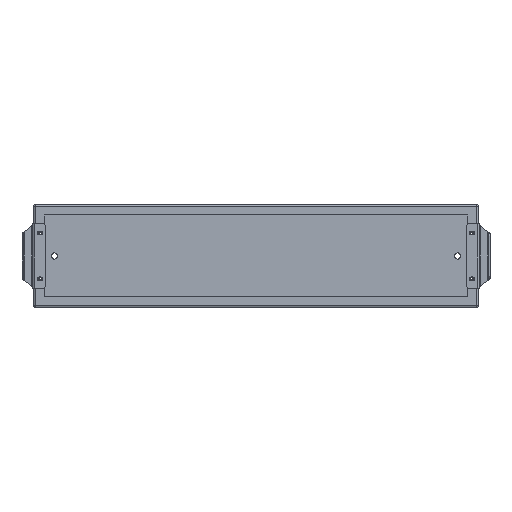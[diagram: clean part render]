
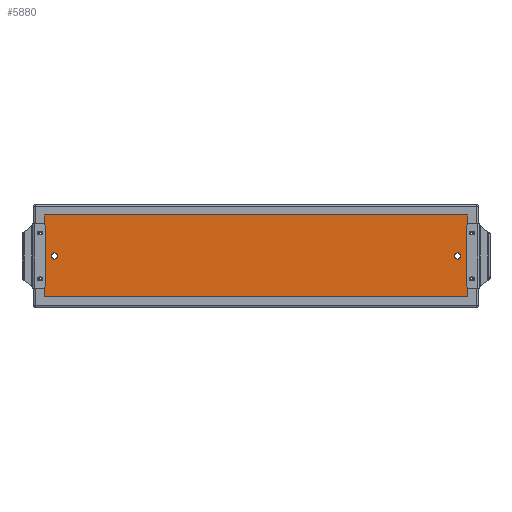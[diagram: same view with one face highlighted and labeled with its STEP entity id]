
A CAD part, top view. The second image highlights one B-rep face of the part: STEP entity #5880.
In plain terms, the highlighted planar face has unit normal (0, 0, 1).
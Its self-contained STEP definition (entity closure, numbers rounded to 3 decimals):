
#601 = AXIS2_PLACEMENT_3D ( 'NONE', #3794, #3787, #3786 ) ;
#619 = AXIS2_PLACEMENT_3D ( 'NONE', #3565, #3558, #3557 ) ;
#635 = AXIS2_PLACEMENT_3D ( 'NONE', #3718, #3711, #3710 ) ;
#645 = VECTOR ( 'NONE', #3559, 1000. ) ;
#700 = VECTOR ( 'NONE', #3613, 1000. ) ;
#739 = FACE_BOUND ( 'NONE', #2182, .T. ) ;
#740 = FACE_BOUND ( 'NONE', #2179, .T. ) ;
#741 = FACE_BOUND ( 'NONE', #2088, .T. ) ;
#744 = FACE_BOUND ( 'NONE', #2068, .T. ) ;
#745 = AXIS2_PLACEMENT_3D ( 'NONE', #2869, #2868, #2867 ) ;
#747 = FACE_BOUND ( 'NONE', #2090, .T. ) ;
#749 = FACE_OUTER_BOUND ( 'NONE', #2050, .T. ) ;
#754 = FACE_BOUND ( 'NONE', #2048, .T. ) ;
#913 = AXIS2_PLACEMENT_3D ( 'NONE', #4255, #4254, #4253 ) ;
#1091 = AXIS2_PLACEMENT_3D ( 'NONE', #3487, #3486, #3485 ) ;
#1134 = AXIS2_PLACEMENT_3D ( 'NONE', #4252, #4251, #4250 ) ;
#1268 = AXIS2_PLACEMENT_3D ( 'NONE', #3431, #3430, #3429 ) ;
#1300 = AXIS2_PLACEMENT_3D ( 'NONE', #3437, #3433, #3432 ) ;
#1308 = VECTOR ( 'NONE', #4208, 1000. ) ;
#1310 = VECTOR ( 'NONE', #4212, 1000. ) ;
#1512 = EDGE_CURVE ( 'NONE', #5394, #1844, #5683, .T. ) ;
#1519 = EDGE_CURVE ( 'NONE', #5418, #1867, #5688, .T. ) ;
#1526 = EDGE_CURVE ( 'NONE', #5407, #5408, #5690, .T. ) ;
#1528 = EDGE_CURVE ( 'NONE', #1870, #1892, #5692, .T. ) ;
#1587 = EDGE_CURVE ( 'NONE', #1869, #5421, #5703, .T. ) ;
#1612 = EDGE_CURVE ( 'NONE', #1885, #5357, #5715, .T. ) ;
#1636 = EDGE_CURVE ( 'NONE', #5368, #5363, #3615, .T. ) ;
#1652 = EDGE_CURVE ( 'NONE', #5376, #5361, #3561, .T. ) ;
#1653 = EDGE_CURVE ( 'NONE', #1892, #1870, #5728, .T. ) ;
#1677 = EDGE_CURVE ( 'NONE', #1867, #5418, #5736, .T. ) ;
#1693 = EDGE_CURVE ( 'NONE', #1844, #5394, #5950, .T. ) ;
#1694 = EDGE_CURVE ( 'NONE', #5357, #1885, #5949, .T. ) ;
#1717 = EDGE_CURVE ( 'NONE', #5421, #1869, #5955, .T. ) ;
#1718 = EDGE_CURVE ( 'NONE', #5408, #5407, #5957, .T. ) ;
#1729 = EDGE_CURVE ( 'NONE', #5363, #5361, #4214, .T. ) ;
#1730 = EDGE_CURVE ( 'NONE', #5368, #5376, #4210, .T. ) ;
#1844 = VERTEX_POINT ( 'NONE', #2666 ) ;
#1867 = VERTEX_POINT ( 'NONE', #2643 ) ;
#1869 = VERTEX_POINT ( 'NONE', #2641 ) ;
#1870 = VERTEX_POINT ( 'NONE', #2640 ) ;
#1885 = VERTEX_POINT ( 'NONE', #2625 ) ;
#1892 = VERTEX_POINT ( 'NONE', #2618 ) ;
#2048 = EDGE_LOOP ( 'NONE', ( #5244, #5247 ) ) ;
#2050 = EDGE_LOOP ( 'NONE', ( #5248, #5250, #5249, #5251 ) ) ;
#2068 = EDGE_LOOP ( 'NONE', ( #5252, #5257 ) ) ;
#2088 = EDGE_LOOP ( 'NONE', ( #5254, #5256 ) ) ;
#2090 = EDGE_LOOP ( 'NONE', ( #5253, #5255 ) ) ;
#2179 = EDGE_LOOP ( 'NONE', ( #5278, #5276 ) ) ;
#2182 = EDGE_LOOP ( 'NONE', ( #5275, #5274 ) ) ;
#2412 = CARTESIAN_POINT ( 'NONE',  ( -299.5, 0., 2. ) ) ;
#2415 = CARTESIAN_POINT ( 'NONE',  ( 290.5, 0., 2. ) ) ;
#2425 = CARTESIAN_POINT ( 'NONE',  ( -317.8, -33.5, 2. ) ) ;
#2426 = CARTESIAN_POINT ( 'NONE',  ( -314.2, -33.5, 2. ) ) ;
#2439 = CARTESIAN_POINT ( 'NONE',  ( -314.2, 33.5, 2. ) ) ;
#2457 = CARTESIAN_POINT ( 'NONE',  ( 323., 73., 2. ) ) ;
#2465 = CARTESIAN_POINT ( 'NONE',  ( 323., -73., 2. ) ) ;
#2470 = CARTESIAN_POINT ( 'NONE',  ( -323., -73., 2. ) ) ;
#2472 = CARTESIAN_POINT ( 'NONE',  ( -323., 73., 2. ) ) ;
#2476 = CARTESIAN_POINT ( 'NONE',  ( 317.8, -33.5, 2. ) ) ;
#2618 = CARTESIAN_POINT ( 'NONE',  ( 317.8, 33.5, 2. ) ) ;
#2625 = CARTESIAN_POINT ( 'NONE',  ( 314.2, -33.5, 2. ) ) ;
#2640 = CARTESIAN_POINT ( 'NONE',  ( 314.2, 33.5, 2. ) ) ;
#2641 = CARTESIAN_POINT ( 'NONE',  ( -290.5, 0., 2. ) ) ;
#2643 = CARTESIAN_POINT ( 'NONE',  ( 299.5, 0., 2. ) ) ;
#2666 = CARTESIAN_POINT ( 'NONE',  ( -317.8, 33.5, 2. ) ) ;
#2867 = DIRECTION ( 'NONE',  ( 1., 0., 0. ) ) ;
#2868 = DIRECTION ( 'NONE',  ( 0., 0., 1. ) ) ;
#2869 = CARTESIAN_POINT ( 'NONE',  ( 0., 0., 2. ) ) ;
#2870 = PLANE ( 'NONE',  #745 ) ;
#3429 = DIRECTION ( 'NONE',  ( 1., 0., 0. ) ) ;
#3430 = DIRECTION ( 'NONE',  ( 0., 0., 1. ) ) ;
#3431 = CARTESIAN_POINT ( 'NONE',  ( 316., -33.5, 2. ) ) ;
#3432 = DIRECTION ( 'NONE',  ( 1., 0., 0. ) ) ;
#3433 = DIRECTION ( 'NONE',  ( 0., 0., -1. ) ) ;
#3437 = CARTESIAN_POINT ( 'NONE',  ( -316., 33.5, 2. ) ) ;
#3485 = DIRECTION ( 'NONE',  ( 1., 0., 0. ) ) ;
#3486 = DIRECTION ( 'NONE',  ( 0., 0., 1. ) ) ;
#3487 = CARTESIAN_POINT ( 'NONE',  ( 295., 0., 2. ) ) ;
#3557 = DIRECTION ( 'NONE',  ( 1., 0., 0. ) ) ;
#3558 = DIRECTION ( 'NONE',  ( 0., 0., 1. ) ) ;
#3559 = DIRECTION ( 'NONE',  ( -1., 0., 0. ) ) ;
#3560 = CARTESIAN_POINT ( 'NONE',  ( 325., 73., 2. ) ) ;
#3561 = LINE ( 'NONE', #3560, #645 ) ;
#3565 = CARTESIAN_POINT ( 'NONE',  ( 316., 33.5, 2. ) ) ;
#3613 = DIRECTION ( 'NONE',  ( -1., 0., 0. ) ) ;
#3614 = CARTESIAN_POINT ( 'NONE',  ( 0., -73., 2. ) ) ;
#3615 = LINE ( 'NONE', #3614, #700 ) ;
#3710 = DIRECTION ( 'NONE',  ( 1., 0., 0. ) ) ;
#3711 = DIRECTION ( 'NONE',  ( 0., 0., 1. ) ) ;
#3718 = CARTESIAN_POINT ( 'NONE',  ( 316., -33.5, 2. ) ) ;
#3786 = DIRECTION ( 'NONE',  ( -1., 0., 0. ) ) ;
#3787 = DIRECTION ( 'NONE',  ( 0., 0., -1. ) ) ;
#3794 = CARTESIAN_POINT ( 'NONE',  ( -295., 0., 2. ) ) ;
#4208 = DIRECTION ( 'NONE',  ( 0., 1., 0. ) ) ;
#4209 = CARTESIAN_POINT ( 'NONE',  ( 323., -75., 2. ) ) ;
#4210 = LINE ( 'NONE', #4209, #1308 ) ;
#4212 = DIRECTION ( 'NONE',  ( 0., 1., 0. ) ) ;
#4213 = CARTESIAN_POINT ( 'NONE',  ( -323., 0., 2. ) ) ;
#4214 = LINE ( 'NONE', #4213, #1310 ) ;
#4250 = DIRECTION ( 'NONE',  ( 1., 0., 0. ) ) ;
#4251 = DIRECTION ( 'NONE',  ( 0., 0., -1. ) ) ;
#4252 = CARTESIAN_POINT ( 'NONE',  ( -316., -33.5, 2. ) ) ;
#4253 = DIRECTION ( 'NONE',  ( -1., 0., 0. ) ) ;
#4254 = DIRECTION ( 'NONE',  ( 0., 0., -1. ) ) ;
#4255 = CARTESIAN_POINT ( 'NONE',  ( -295., 0., 2. ) ) ;
#4350 = DIRECTION ( 'NONE',  ( 1., 0., 0. ) ) ;
#4351 = DIRECTION ( 'NONE',  ( 0., 0., 1. ) ) ;
#4355 = CARTESIAN_POINT ( 'NONE',  ( 316., 33.5, 2. ) ) ;
#4356 = DIRECTION ( 'NONE',  ( 1., 0., 0. ) ) ;
#4357 = DIRECTION ( 'NONE',  ( 0., 0., -1. ) ) ;
#4358 = CARTESIAN_POINT ( 'NONE',  ( -316., -33.5, 2. ) ) ;
#4377 = DIRECTION ( 'NONE',  ( 1., 0., 0. ) ) ;
#4378 = DIRECTION ( 'NONE',  ( 0., 0., 1. ) ) ;
#4382 = CARTESIAN_POINT ( 'NONE',  ( 295., 0., 2. ) ) ;
#4398 = DIRECTION ( 'NONE',  ( 1., 0., 0. ) ) ;
#4399 = DIRECTION ( 'NONE',  ( 0., 0., -1. ) ) ;
#4400 = CARTESIAN_POINT ( 'NONE',  ( -316., 33.5, 2. ) ) ;
#5244 = ORIENTED_EDGE ( 'NONE', *, *, #1512, .T. ) ;
#5247 = ORIENTED_EDGE ( 'NONE', *, *, #1693, .T. ) ;
#5248 = ORIENTED_EDGE ( 'NONE', *, *, #1652, .T. ) ;
#5249 = ORIENTED_EDGE ( 'NONE', *, *, #1636, .F. ) ;
#5250 = ORIENTED_EDGE ( 'NONE', *, *, #1729, .F. ) ;
#5251 = ORIENTED_EDGE ( 'NONE', *, *, #1730, .T. ) ;
#5252 = ORIENTED_EDGE ( 'NONE', *, *, #1653, .F. ) ;
#5253 = ORIENTED_EDGE ( 'NONE', *, *, #1694, .F. ) ;
#5254 = ORIENTED_EDGE ( 'NONE', *, *, #1526, .T. ) ;
#5255 = ORIENTED_EDGE ( 'NONE', *, *, #1612, .F. ) ;
#5256 = ORIENTED_EDGE ( 'NONE', *, *, #1718, .T. ) ;
#5257 = ORIENTED_EDGE ( 'NONE', *, *, #1528, .F. ) ;
#5274 = ORIENTED_EDGE ( 'NONE', *, *, #1717, .T. ) ;
#5275 = ORIENTED_EDGE ( 'NONE', *, *, #1587, .T. ) ;
#5276 = ORIENTED_EDGE ( 'NONE', *, *, #1519, .F. ) ;
#5278 = ORIENTED_EDGE ( 'NONE', *, *, #1677, .F. ) ;
#5357 = VERTEX_POINT ( 'NONE', #2476 ) ;
#5361 = VERTEX_POINT ( 'NONE', #2472 ) ;
#5363 = VERTEX_POINT ( 'NONE', #2470 ) ;
#5368 = VERTEX_POINT ( 'NONE', #2465 ) ;
#5376 = VERTEX_POINT ( 'NONE', #2457 ) ;
#5394 = VERTEX_POINT ( 'NONE', #2439 ) ;
#5407 = VERTEX_POINT ( 'NONE', #2426 ) ;
#5408 = VERTEX_POINT ( 'NONE', #2425 ) ;
#5418 = VERTEX_POINT ( 'NONE', #2415 ) ;
#5421 = VERTEX_POINT ( 'NONE', #2412 ) ;
#5455 = AXIS2_PLACEMENT_3D ( 'NONE', #4355, #4351, #4350 ) ;
#5456 = AXIS2_PLACEMENT_3D ( 'NONE', #4358, #4357, #4356 ) ;
#5466 = AXIS2_PLACEMENT_3D ( 'NONE', #4382, #4378, #4377 ) ;
#5476 = AXIS2_PLACEMENT_3D ( 'NONE', #4400, #4399, #4398 ) ;
#5683 = CIRCLE ( 'NONE', #5476, 1.8 ) ;
#5688 = CIRCLE ( 'NONE', #5466, 4.5 ) ;
#5690 = CIRCLE ( 'NONE', #5456, 1.8 ) ;
#5692 = CIRCLE ( 'NONE', #5455, 1.8 ) ;
#5703 = CIRCLE ( 'NONE', #601, 4.5 ) ;
#5715 = CIRCLE ( 'NONE', #635, 1.8 ) ;
#5728 = CIRCLE ( 'NONE', #619, 1.8 ) ;
#5736 = CIRCLE ( 'NONE', #1091, 4.5 ) ;
#5880 = ADVANCED_FACE ( 'NONE', ( #754, #749, #747, #744, #741, #740, #739 ), #2870, .T. ) ;
#5949 = CIRCLE ( 'NONE', #1268, 1.8 ) ;
#5950 = CIRCLE ( 'NONE', #1300, 1.8 ) ;
#5955 = CIRCLE ( 'NONE', #913, 4.5 ) ;
#5957 = CIRCLE ( 'NONE', #1134, 1.8 ) ;
